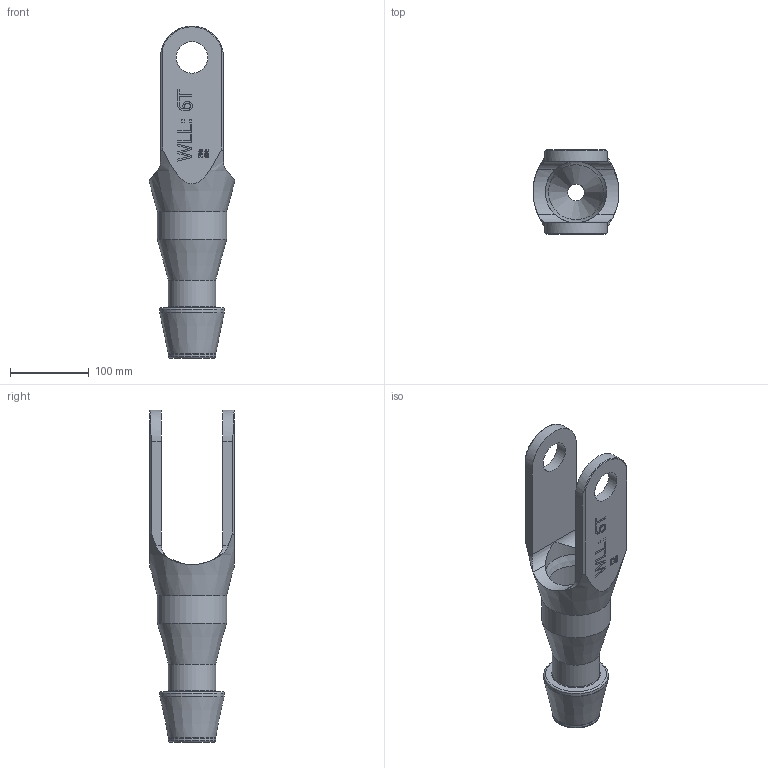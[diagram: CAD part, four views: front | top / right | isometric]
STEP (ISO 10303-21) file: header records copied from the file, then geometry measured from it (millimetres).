
FILE_DESCRIPTION(/* description */ ('Termination Bullet 6T WLL'),/* implementation_level */ '2;1');
FILE_NAME(/* name */ 'C:\VaultWork\Designs\01 - Engineering\02 - Projects\1517000-1517999\1517137 - Macgregor Norway 6Te Latch with double bullet system\Design Pack\Models\143003_22.09.22.stp',/* time_stamp */ '2022-09-22T15:25:30+02:00',/* author */ ('Geir.Trengereid'),/* organization */ (''),/* preprocessor_version */ 'ST-DEVELOPER v18.1',/* originating_system */ 'Autodesk Inventor 2022',/* authorisation */ '');
FILE_SCHEMA (('AUTOMOTIVE_DESIGN { 1 0 10303 214 3 1 1 }'));
Length unit declared in the file: millimetre
Products named in the file (1): 143003
Bounding box: 109.17 x 107 x 422 mm (x, y, z)
Volume: 1016033.7 mm3; surface area: 169037 mm2
Topology: 1 solids, 1 shells, 275 faces, 716 edges, 470 vertices
Faces by surface type: plane 191, bspline 43, cylinder 26, torus 8, cone 7
Full cylindrical faces by diameter (mm): 21 x1, 33.071 x1, 40 x2, 60 x2, 70 x1, 78 x1, 82 x1, 88 x1
Entity records: 9021 total; most frequent: CARTESIAN_POINT 2358, ORIENTED_EDGE 1432, DIRECTION 1126, EDGE_CURVE 716, LINE 542, VECTOR 542, VERTEX_POINT 470, EDGE_LOOP 308
